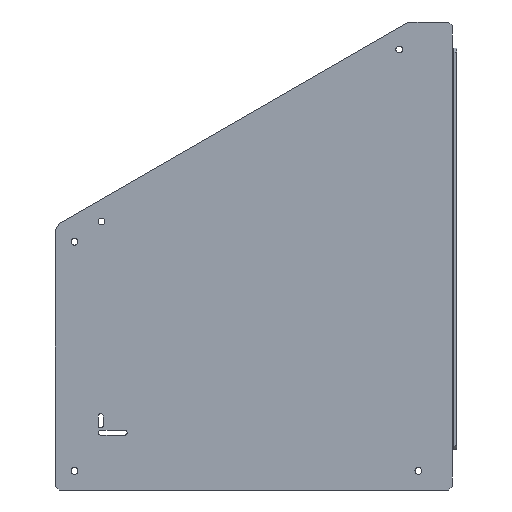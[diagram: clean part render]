
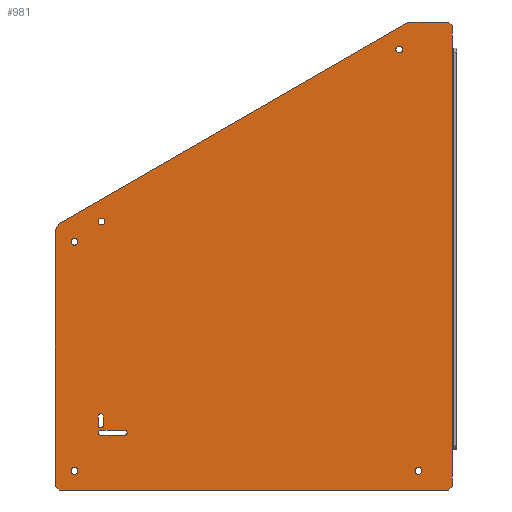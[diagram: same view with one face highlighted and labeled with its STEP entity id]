
A CAD part, front view. The second image highlights one B-rep face of the part: STEP entity #981.
In plain terms, the highlighted planar face has unit normal (0, -1, 0).
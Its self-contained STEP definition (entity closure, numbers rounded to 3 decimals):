
#58=CIRCLE('',#1048,1.588);
#59=CIRCLE('',#1049,1.588);
#60=CIRCLE('',#1050,1.587);
#61=CIRCLE('',#1051,1.587);
#62=CIRCLE('',#1052,2.248);
#63=CIRCLE('',#1053,2.248);
#64=CIRCLE('',#1054,2.248);
#65=CIRCLE('',#1055,2.248);
#66=CIRCLE('',#1056,2.248);
#151=ORIENTED_EDGE('',*,*,#392,.T.);
#152=ORIENTED_EDGE('',*,*,#393,.T.);
#153=ORIENTED_EDGE('',*,*,#394,.T.);
#154=ORIENTED_EDGE('',*,*,#395,.T.);
#155=ORIENTED_EDGE('',*,*,#396,.T.);
#156=ORIENTED_EDGE('',*,*,#397,.T.);
#157=ORIENTED_EDGE('',*,*,#398,.T.);
#158=ORIENTED_EDGE('',*,*,#399,.T.);
#159=ORIENTED_EDGE('',*,*,#400,.T.);
#160=ORIENTED_EDGE('',*,*,#401,.T.);
#161=ORIENTED_EDGE('',*,*,#402,.T.);
#162=ORIENTED_EDGE('',*,*,#403,.T.);
#163=ORIENTED_EDGE('',*,*,#404,.T.);
#164=ORIENTED_EDGE('',*,*,#405,.F.);
#165=ORIENTED_EDGE('',*,*,#406,.T.);
#166=ORIENTED_EDGE('',*,*,#365,.F.);
#167=ORIENTED_EDGE('',*,*,#407,.T.);
#168=ORIENTED_EDGE('',*,*,#363,.F.);
#169=ORIENTED_EDGE('',*,*,#408,.T.);
#170=ORIENTED_EDGE('',*,*,#353,.F.);
#171=ORIENTED_EDGE('',*,*,#409,.F.);
#172=ORIENTED_EDGE('',*,*,#359,.F.);
#173=ORIENTED_EDGE('',*,*,#410,.T.);
#174=ORIENTED_EDGE('',*,*,#369,.F.);
#353=EDGE_CURVE('',#476,#477,#572,.T.);
#359=EDGE_CURVE('',#482,#483,#578,.T.);
#363=EDGE_CURVE('',#486,#487,#582,.T.);
#365=EDGE_CURVE('',#488,#489,#584,.T.);
#369=EDGE_CURVE('',#492,#493,#588,.T.);
#392=EDGE_CURVE('',#510,#511,#602,.T.);
#393=EDGE_CURVE('',#511,#512,#58,.T.);
#394=EDGE_CURVE('',#512,#513,#603,.T.);
#395=EDGE_CURVE('',#513,#510,#59,.T.);
#396=EDGE_CURVE('',#514,#515,#604,.T.);
#397=EDGE_CURVE('',#515,#516,#60,.T.);
#398=EDGE_CURVE('',#516,#517,#605,.T.);
#399=EDGE_CURVE('',#517,#514,#61,.T.);
#400=EDGE_CURVE('',#518,#518,#62,.T.);
#401=EDGE_CURVE('',#519,#519,#63,.T.);
#402=EDGE_CURVE('',#520,#520,#64,.T.);
#403=EDGE_CURVE('',#521,#521,#65,.T.);
#404=EDGE_CURVE('',#522,#522,#66,.T.);
#405=EDGE_CURVE('',#523,#492,#606,.T.);
#406=EDGE_CURVE('',#523,#489,#607,.F.);
#407=EDGE_CURVE('',#488,#487,#608,.F.);
#408=EDGE_CURVE('',#486,#477,#609,.F.);
#409=EDGE_CURVE('',#483,#476,#610,.F.);
#410=EDGE_CURVE('',#482,#493,#611,.F.);
#476=VERTEX_POINT('',#1432);
#477=VERTEX_POINT('',#1433);
#482=VERTEX_POINT('',#1444);
#483=VERTEX_POINT('',#1446);
#486=VERTEX_POINT('',#1453);
#487=VERTEX_POINT('',#1455);
#488=VERTEX_POINT('',#1459);
#489=VERTEX_POINT('',#1460);
#492=VERTEX_POINT('',#1468);
#493=VERTEX_POINT('',#1469);
#510=VERTEX_POINT('',#1511);
#511=VERTEX_POINT('',#1512);
#512=VERTEX_POINT('',#1514);
#513=VERTEX_POINT('',#1516);
#514=VERTEX_POINT('',#1519);
#515=VERTEX_POINT('',#1520);
#516=VERTEX_POINT('',#1522);
#517=VERTEX_POINT('',#1524);
#518=VERTEX_POINT('',#1527);
#519=VERTEX_POINT('',#1529);
#520=VERTEX_POINT('',#1531);
#521=VERTEX_POINT('',#1533);
#522=VERTEX_POINT('',#1535);
#523=VERTEX_POINT('',#1537);
#572=LINE('',#1431,#637);
#578=LINE('',#1445,#643);
#582=LINE('',#1454,#647);
#584=LINE('',#1458,#649);
#588=LINE('',#1467,#653);
#602=LINE('',#1510,#667);
#603=LINE('',#1515,#668);
#604=LINE('',#1518,#669);
#605=LINE('',#1523,#670);
#606=LINE('',#1536,#671);
#607=LINE('',#1538,#672);
#608=LINE('',#1539,#673);
#609=LINE('',#1540,#674);
#610=LINE('',#1541,#675);
#611=LINE('',#1542,#676);
#637=VECTOR('',#1146,1000.);
#643=VECTOR('',#1154,1000.);
#647=VECTOR('',#1160,1000.);
#649=VECTOR('',#1164,1000.);
#653=VECTOR('',#1170,1000.);
#667=VECTOR('',#1206,1000.);
#668=VECTOR('',#1209,1000.);
#669=VECTOR('',#1212,1000.);
#670=VECTOR('',#1215,1000.);
#671=VECTOR('',#1228,1000.);
#672=VECTOR('',#1229,1000.);
#673=VECTOR('',#1230,1000.);
#674=VECTOR('',#1231,1000.);
#675=VECTOR('',#1232,1000.);
#676=VECTOR('',#1233,1000.);
#715=EDGE_LOOP('',(#151,#152,#153,#154));
#716=EDGE_LOOP('',(#155,#156,#157,#158));
#717=EDGE_LOOP('',(#159));
#718=EDGE_LOOP('',(#160));
#719=EDGE_LOOP('',(#161));
#720=EDGE_LOOP('',(#162));
#721=EDGE_LOOP('',(#163));
#722=EDGE_LOOP('',(#164,#165,#166,#167,#168,#169,#170,#171,#172,#173,#174));
#840=FACE_BOUND('',#715,.T.);
#841=FACE_BOUND('',#716,.T.);
#842=FACE_BOUND('',#717,.T.);
#843=FACE_BOUND('',#718,.T.);
#844=FACE_BOUND('',#719,.T.);
#845=FACE_BOUND('',#720,.T.);
#846=FACE_BOUND('',#721,.T.);
#847=FACE_BOUND('',#722,.T.);
#958=PLANE('',#1047);
#981=ADVANCED_FACE('',(#840,#841,#842,#843,#844,#845,#846,#847),#958,.F.);
#1047=AXIS2_PLACEMENT_3D('',#1509,#1204,#1205);
#1048=AXIS2_PLACEMENT_3D('',#1513,#1207,#1208);
#1049=AXIS2_PLACEMENT_3D('',#1517,#1210,#1211);
#1050=AXIS2_PLACEMENT_3D('',#1521,#1213,#1214);
#1051=AXIS2_PLACEMENT_3D('',#1525,#1216,#1217);
#1052=AXIS2_PLACEMENT_3D('',#1526,#1218,#1219);
#1053=AXIS2_PLACEMENT_3D('',#1528,#1220,#1221);
#1054=AXIS2_PLACEMENT_3D('',#1530,#1222,#1223);
#1055=AXIS2_PLACEMENT_3D('',#1532,#1224,#1225);
#1056=AXIS2_PLACEMENT_3D('',#1534,#1226,#1227);
#1146=DIRECTION('',(0.,0.,-1.));
#1154=DIRECTION('',(0.,0.,-1.));
#1160=DIRECTION('',(-1.,0.,0.));
#1164=DIRECTION('',(0.,0.,1.));
#1170=DIRECTION('',(1.,0.,0.));
#1204=DIRECTION('',(0.,1.,0.));
#1205=DIRECTION('',(0.,0.,1.));
#1206=DIRECTION('',(-1.,0.,0.));
#1207=DIRECTION('',(0.,1.,0.));
#1208=DIRECTION('',(0.,0.,1.));
#1209=DIRECTION('',(1.,0.,0.));
#1210=DIRECTION('',(0.,1.,0.));
#1211=DIRECTION('',(0.,0.,1.));
#1212=DIRECTION('',(0.,0.,1.));
#1213=DIRECTION('',(0.,1.,0.));
#1214=DIRECTION('',(0.,0.,1.));
#1215=DIRECTION('',(0.,0.,-1.));
#1216=DIRECTION('',(0.,1.,0.));
#1217=DIRECTION('',(0.,0.,1.));
#1218=DIRECTION('',(0.,1.,0.));
#1219=DIRECTION('',(0.,0.,1.));
#1220=DIRECTION('',(0.,1.,0.));
#1221=DIRECTION('',(0.,0.,1.));
#1222=DIRECTION('',(0.,1.,0.));
#1223=DIRECTION('',(0.,0.,1.));
#1224=DIRECTION('',(0.,1.,0.));
#1225=DIRECTION('',(0.,0.,1.));
#1226=DIRECTION('',(0.,1.,0.));
#1227=DIRECTION('',(0.,0.,1.));
#1228=DIRECTION('',(0.866,0.,0.5));
#1229=DIRECTION('',(0.5,0.,0.866));
#1230=DIRECTION('',(-0.707,0.,0.707));
#1231=DIRECTION('',(-0.707,0.,-0.707));
#1232=DIRECTION('',(0.,0.,1.));
#1233=DIRECTION('',(0.707,0.,-0.707));
#1431=CARTESIAN_POINT('',(131.978,0.,155.575));
#1432=CARTESIAN_POINT('',(131.978,0.,-128.588));
#1433=CARTESIAN_POINT('',(131.978,0.,-153.035));
#1444=CARTESIAN_POINT('',(131.978,0.,153.035));
#1445=CARTESIAN_POINT('',(131.978,0.,155.575));
#1446=CARTESIAN_POINT('',(131.978,0.,138.113));
#1453=CARTESIAN_POINT('',(129.438,0.,-155.575));
#1454=CARTESIAN_POINT('',(131.978,0.,-155.575));
#1455=CARTESIAN_POINT('',(-129.438,0.,-155.575));
#1458=CARTESIAN_POINT('',(-131.978,0.,-155.575));
#1459=CARTESIAN_POINT('',(-131.978,0.,-153.035));
#1460=CARTESIAN_POINT('',(-131.978,0.,17.387));
#1467=CARTESIAN_POINT('',(-131.978,0.,155.575));
#1468=CARTESIAN_POINT('',(102.972,0.,155.575));
#1469=CARTESIAN_POINT('',(129.438,0.,155.575));
#1509=CARTESIAN_POINT('',(0.,0.,0.));
#1510=CARTESIAN_POINT('',(0.,0.,-119.063));
#1511=CARTESIAN_POINT('',(-85.941,0.,-119.063));
#1512=CARTESIAN_POINT('',(-101.816,0.,-119.063));
#1513=CARTESIAN_POINT('',(-101.816,0.,-117.475));
#1514=CARTESIAN_POINT('',(-101.816,0.,-115.888));
#1515=CARTESIAN_POINT('',(0.,0.,-115.888));
#1516=CARTESIAN_POINT('',(-85.941,0.,-115.888));
#1517=CARTESIAN_POINT('',(-85.941,0.,-117.475));
#1518=CARTESIAN_POINT('',(-103.403,0.,0.));
#1519=CARTESIAN_POINT('',(-103.403,0.,-112.7));
#1520=CARTESIAN_POINT('',(-103.403,0.,-106.35));
#1521=CARTESIAN_POINT('',(-101.816,0.,-106.35));
#1522=CARTESIAN_POINT('',(-100.228,0.,-106.35));
#1523=CARTESIAN_POINT('',(-100.228,0.,0.));
#1524=CARTESIAN_POINT('',(-100.228,0.,-112.7));
#1525=CARTESIAN_POINT('',(-101.816,0.,-112.7));
#1526=CARTESIAN_POINT('',(-119.278,0.,9.525));
#1527=CARTESIAN_POINT('',(-119.278,0.,11.773));
#1528=CARTESIAN_POINT('',(-101.352,0.,22.944));
#1529=CARTESIAN_POINT('',(-101.352,0.,25.192));
#1530=CARTESIAN_POINT('',(96.622,0.,137.244));
#1531=CARTESIAN_POINT('',(96.622,0.,139.492));
#1532=CARTESIAN_POINT('',(109.322,0.,-142.875));
#1533=CARTESIAN_POINT('',(109.322,0.,-140.627));
#1534=CARTESIAN_POINT('',(-119.278,0.,-142.875));
#1535=CARTESIAN_POINT('',(-119.278,0.,-140.627));
#1536=CARTESIAN_POINT('',(-131.978,0.,19.927));
#1537=CARTESIAN_POINT('',(-129.779,0.,21.197));
#1538=CARTESIAN_POINT('',(-129.779,0.,21.197));
#1539=CARTESIAN_POINT('',(-131.978,0.,-153.035));
#1540=CARTESIAN_POINT('',(129.438,0.,-155.575));
#1541=CARTESIAN_POINT('',(131.978,0.,-155.575));
#1542=CARTESIAN_POINT('',(131.978,0.,153.035));
